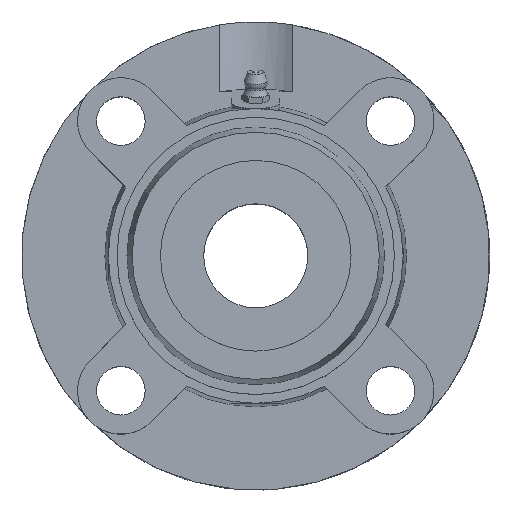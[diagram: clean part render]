
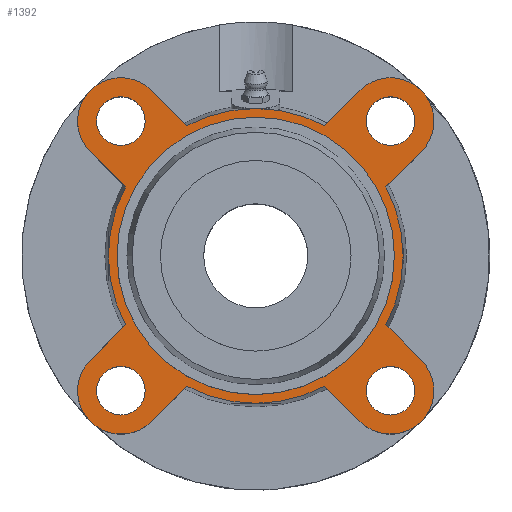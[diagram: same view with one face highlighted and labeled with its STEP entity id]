
A CAD part, top view. The second image highlights one B-rep face of the part: STEP entity #1392.
In plain terms, the highlighted planar face has unit normal (0, 0, 1).
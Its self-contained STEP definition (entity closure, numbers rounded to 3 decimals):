
#112=CARTESIAN_POINT('',(0.0,40.0,18.));
#113=VERTEX_POINT('',#112);
#114=CARTESIAN_POINT('',(0.0,0.,18.));
#115=DIRECTION('',(0.0,0.0,-1.0));
#116=DIRECTION('',(0.0,1.0,0.0));
#117=AXIS2_PLACEMENT_3D('',#114,#115,#116);
#118=CIRCLE('',#117,40.0);
#119=EDGE_CURVE('',#113,#113,#118,.T.);
#265=CARTESIAN_POINT('',(-31.891,-38.891,18.0));
#266=VERTEX_POINT('',#265);
#267=CARTESIAN_POINT('',(-38.891,-38.891,18.));
#268=DIRECTION('',(0.0,0.0,-1.0));
#269=DIRECTION('',(1.0,0.0,0.0));
#270=AXIS2_PLACEMENT_3D('',#267,#268,#269);
#271=CIRCLE('',#270,7.);
#272=EDGE_CURVE('',#266,#266,#271,.T.);
#293=CARTESIAN_POINT('',(-31.891,38.891,18.));
#294=VERTEX_POINT('',#293);
#295=CARTESIAN_POINT('',(-38.891,38.891,18.));
#296=DIRECTION('',(0.0,0.0,-1.0));
#297=DIRECTION('',(1.0,0.0,0.0));
#298=AXIS2_PLACEMENT_3D('',#295,#296,#297);
#299=CIRCLE('',#298,7.);
#300=EDGE_CURVE('',#294,#294,#299,.T.);
#321=CARTESIAN_POINT('',(45.891,38.891,18.));
#322=VERTEX_POINT('',#321);
#323=CARTESIAN_POINT('',(38.891,38.891,18.));
#324=DIRECTION('',(0.0,0.0,-1.0));
#325=DIRECTION('',(1.0,0.0,0.0));
#326=AXIS2_PLACEMENT_3D('',#323,#324,#325);
#327=CIRCLE('',#326,7.);
#328=EDGE_CURVE('',#322,#322,#327,.T.);
#349=CARTESIAN_POINT('',(45.891,-38.891,18.0));
#350=VERTEX_POINT('',#349);
#351=CARTESIAN_POINT('',(38.891,-38.891,18.));
#352=DIRECTION('',(0.0,0.0,-1.0));
#353=DIRECTION('',(1.0,0.0,0.0));
#354=AXIS2_PLACEMENT_3D('',#351,#352,#353);
#355=CIRCLE('',#354,7.);
#356=EDGE_CURVE('',#350,#350,#355,.T.);
#690=CARTESIAN_POINT('',(0.,42.5,18.));
#691=VERTEX_POINT('',#690);
#848=CARTESIAN_POINT('',(-19.884,37.562,18.));
#849=VERTEX_POINT('',#848);
#863=CARTESIAN_POINT('',(0.0,0.,18.));
#864=DIRECTION('',(0.0,0.0,1.0));
#865=DIRECTION('',(0.0,-1.0,0.0));
#866=AXIS2_PLACEMENT_3D('',#863,#864,#865);
#867=CIRCLE('',#866,42.5);
#868=EDGE_CURVE('',#691,#849,#867,.T.);
#878=CARTESIAN_POINT('',(-19.884,-37.562,18.));
#879=VERTEX_POINT('',#878);
#895=CARTESIAN_POINT('',(-30.052,-47.73,18.));
#896=VERTEX_POINT('',#895);
#897=CARTESIAN_POINT('',(-19.884,-37.562,18.));
#898=DIRECTION('',(-0.707,-0.707,0.));
#899=VECTOR('',#898,14.38);
#900=LINE('',#897,#899);
#901=EDGE_CURVE('',#879,#896,#900,.T.);
#925=CARTESIAN_POINT('',(-37.562,19.884,18.));
#926=VERTEX_POINT('',#925);
#942=CARTESIAN_POINT('',(-47.73,30.052,18.));
#943=VERTEX_POINT('',#942);
#944=CARTESIAN_POINT('',(-37.562,19.884,18.));
#945=DIRECTION('',(-0.707,0.707,0.));
#946=VECTOR('',#945,14.38);
#947=LINE('',#944,#946);
#948=EDGE_CURVE('',#926,#943,#947,.T.);
#972=CARTESIAN_POINT('',(37.562,-19.884,18.));
#973=VERTEX_POINT('',#972);
#989=CARTESIAN_POINT('',(47.73,-30.052,18.0));
#990=VERTEX_POINT('',#989);
#991=CARTESIAN_POINT('',(37.562,-19.884,18.));
#992=DIRECTION('',(0.707,-0.707,0.));
#993=VECTOR('',#992,14.38);
#994=LINE('',#991,#993);
#995=EDGE_CURVE('',#973,#990,#994,.T.);
#1019=CARTESIAN_POINT('',(19.884,37.562,18.));
#1020=VERTEX_POINT('',#1019);
#1034=CARTESIAN_POINT('',(30.052,47.73,18.));
#1035=VERTEX_POINT('',#1034);
#1036=CARTESIAN_POINT('',(19.884,37.562,18.));
#1037=DIRECTION('',(0.707,0.707,0.));
#1038=VECTOR('',#1037,14.38);
#1039=LINE('',#1036,#1038);
#1040=EDGE_CURVE('',#1020,#1035,#1039,.T.);
#1059=CARTESIAN_POINT('',(37.562,19.884,18.));
#1060=VERTEX_POINT('',#1059);
#1082=CARTESIAN_POINT('',(47.73,30.052,18.));
#1083=VERTEX_POINT('',#1082);
#1090=CARTESIAN_POINT('',(47.73,30.052,18.));
#1091=DIRECTION('',(-0.707,-0.707,0.));
#1092=VECTOR('',#1091,14.38);
#1093=LINE('',#1090,#1092);
#1094=EDGE_CURVE('',#1083,#1060,#1093,.T.);
#1104=CARTESIAN_POINT('',(-47.73,-30.052,18.0));
#1105=VERTEX_POINT('',#1104);
#1106=CARTESIAN_POINT('',(-38.891,-38.891,18.));
#1107=DIRECTION('',(0.0,0.0,-1.0));
#1108=DIRECTION('',(-0.707,0.707,0.0));
#1109=AXIS2_PLACEMENT_3D('',#1106,#1107,#1108);
#1110=CIRCLE('',#1109,12.5);
#1111=EDGE_CURVE('',#896,#1105,#1110,.T.);
#1146=CARTESIAN_POINT('',(-37.562,-19.884,18.));
#1147=VERTEX_POINT('',#1146);
#1168=CARTESIAN_POINT('',(-47.73,-30.052,18.0));
#1169=DIRECTION('',(0.707,0.707,0.));
#1170=VECTOR('',#1169,14.38);
#1171=LINE('',#1168,#1170);
#1172=EDGE_CURVE('',#1105,#1147,#1171,.T.);
#1182=CARTESIAN_POINT('',(-30.052,47.73,18.));
#1183=VERTEX_POINT('',#1182);
#1184=CARTESIAN_POINT('',(-38.891,38.891,18.));
#1185=DIRECTION('',(0.0,0.0,-1.0));
#1186=DIRECTION('',(0.707,0.707,0.0));
#1187=AXIS2_PLACEMENT_3D('',#1184,#1185,#1186);
#1188=CIRCLE('',#1187,12.5);
#1189=EDGE_CURVE('',#943,#1183,#1188,.T.);
#1217=CARTESIAN_POINT('',(-30.052,47.73,18.));
#1218=DIRECTION('',(0.707,-0.707,0.));
#1219=VECTOR('',#1218,14.38);
#1220=LINE('',#1217,#1219);
#1221=EDGE_CURVE('',#1183,#849,#1220,.T.);
#1231=CARTESIAN_POINT('',(30.052,-47.73,18.));
#1232=VERTEX_POINT('',#1231);
#1233=CARTESIAN_POINT('',(38.891,-38.891,18.));
#1234=DIRECTION('',(0.0,0.0,-1.0));
#1235=DIRECTION('',(-0.707,-0.707,0.0));
#1236=AXIS2_PLACEMENT_3D('',#1233,#1234,#1235);
#1237=CIRCLE('',#1236,12.5);
#1238=EDGE_CURVE('',#990,#1232,#1237,.T.);
#1273=CARTESIAN_POINT('',(19.884,-37.562,18.));
#1274=VERTEX_POINT('',#1273);
#1295=CARTESIAN_POINT('',(30.052,-47.73,18.));
#1296=DIRECTION('',(-0.707,0.707,0.));
#1297=VECTOR('',#1296,14.38);
#1298=LINE('',#1295,#1297);
#1299=EDGE_CURVE('',#1232,#1274,#1298,.T.);
#1309=CARTESIAN_POINT('',(38.891,38.891,18.));
#1310=DIRECTION('',(0.0,0.0,-1.0));
#1311=DIRECTION('',(0.707,-0.707,0.0));
#1312=AXIS2_PLACEMENT_3D('',#1309,#1310,#1311);
#1313=CIRCLE('',#1312,12.5);
#1314=EDGE_CURVE('',#1035,#1083,#1313,.T.);
#1329=CARTESIAN_POINT('',(0.0,-21.25,18.));
#1330=DIRECTION('',(0.0,0.0,1.0));
#1331=DIRECTION('',(1.0,0.0,0.0));
#1332=AXIS2_PLACEMENT_3D('',#1329,#1330,#1331);
#1333=PLANE('',#1332);
#1334=CARTESIAN_POINT('',(0.0,0.,18.));
#1335=DIRECTION('',(0.0,0.0,1.0));
#1336=DIRECTION('',(0.0,-1.0,0.0));
#1337=AXIS2_PLACEMENT_3D('',#1334,#1335,#1336);
#1338=CIRCLE('',#1337,42.5);
#1339=EDGE_CURVE('',#879,#1274,#1338,.T.);
#1340=ORIENTED_EDGE('',*,*,#1339,.T.);
#1341=ORIENTED_EDGE('',*,*,#1299,.F.);
#1342=ORIENTED_EDGE('',*,*,#1238,.F.);
#1343=ORIENTED_EDGE('',*,*,#995,.F.);
#1344=CARTESIAN_POINT('',(0.0,0.,18.));
#1345=DIRECTION('',(0.0,0.0,1.0));
#1346=DIRECTION('',(0.0,-1.0,0.0));
#1347=AXIS2_PLACEMENT_3D('',#1344,#1345,#1346);
#1348=CIRCLE('',#1347,42.5);
#1349=EDGE_CURVE('',#973,#1060,#1348,.T.);
#1350=ORIENTED_EDGE('',*,*,#1349,.T.);
#1351=ORIENTED_EDGE('',*,*,#1094,.F.);
#1352=ORIENTED_EDGE('',*,*,#1314,.F.);
#1353=ORIENTED_EDGE('',*,*,#1040,.F.);
#1354=CARTESIAN_POINT('',(0.0,0.,18.));
#1355=DIRECTION('',(0.0,0.0,1.0));
#1356=DIRECTION('',(0.0,-1.0,0.0));
#1357=AXIS2_PLACEMENT_3D('',#1354,#1355,#1356);
#1358=CIRCLE('',#1357,42.5);
#1359=EDGE_CURVE('',#1020,#691,#1358,.T.);
#1360=ORIENTED_EDGE('',*,*,#1359,.T.);
#1361=ORIENTED_EDGE('',*,*,#868,.T.);
#1362=ORIENTED_EDGE('',*,*,#1221,.F.);
#1363=ORIENTED_EDGE('',*,*,#1189,.F.);
#1364=ORIENTED_EDGE('',*,*,#948,.F.);
#1365=CARTESIAN_POINT('',(0.0,0.,18.));
#1366=DIRECTION('',(0.0,0.0,1.0));
#1367=DIRECTION('',(0.0,-1.0,0.0));
#1368=AXIS2_PLACEMENT_3D('',#1365,#1366,#1367);
#1369=CIRCLE('',#1368,42.5);
#1370=EDGE_CURVE('',#926,#1147,#1369,.T.);
#1371=ORIENTED_EDGE('',*,*,#1370,.T.);
#1372=ORIENTED_EDGE('',*,*,#1172,.F.);
#1373=ORIENTED_EDGE('',*,*,#1111,.F.);
#1374=ORIENTED_EDGE('',*,*,#901,.F.);
#1375=EDGE_LOOP('',(#1340,#1341,#1342,#1343,#1350,#1351,#1352,#1353,#1360,#1361,#1362,#1363,#1364,#1371,#1372,#1373,#1374));
#1376=FACE_OUTER_BOUND('',#1375,.T.);
#1377=ORIENTED_EDGE('',*,*,#119,.T.);
#1378=EDGE_LOOP('',(#1377));
#1379=FACE_BOUND('',#1378,.T.);
#1380=ORIENTED_EDGE('',*,*,#272,.T.);
#1381=EDGE_LOOP('',(#1380));
#1382=FACE_BOUND('',#1381,.T.);
#1383=ORIENTED_EDGE('',*,*,#300,.T.);
#1384=EDGE_LOOP('',(#1383));
#1385=FACE_BOUND('',#1384,.T.);
#1386=ORIENTED_EDGE('',*,*,#328,.T.);
#1387=EDGE_LOOP('',(#1386));
#1388=FACE_BOUND('',#1387,.T.);
#1389=ORIENTED_EDGE('',*,*,#356,.T.);
#1390=EDGE_LOOP('',(#1389));
#1391=FACE_BOUND('',#1390,.T.);
#1392=ADVANCED_FACE('',(#1376,#1379,#1382,#1385,#1388,#1391),#1333,.T.);
